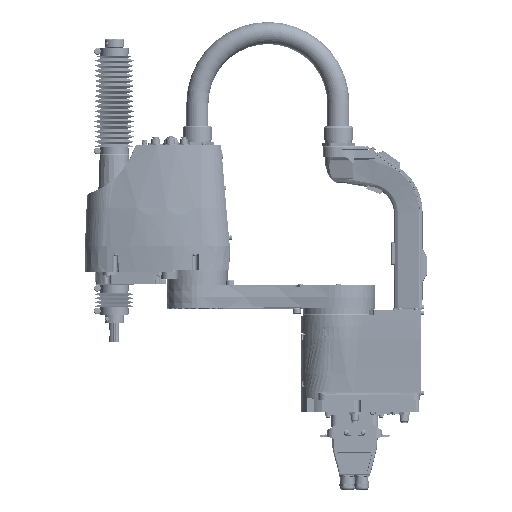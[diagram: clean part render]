
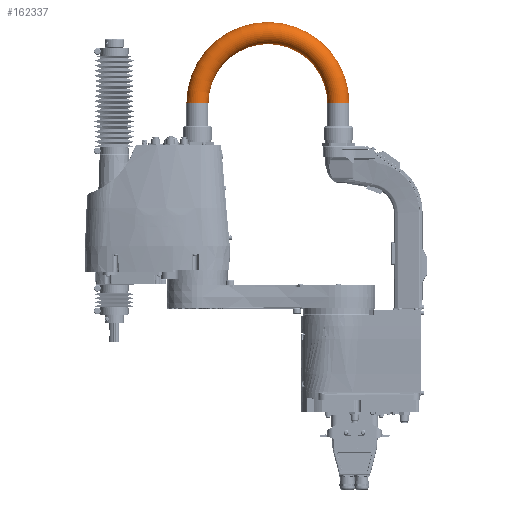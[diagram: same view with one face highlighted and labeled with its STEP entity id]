
A CAD part, top view. The second image highlights one B-rep face of the part: STEP entity #162337.
In plain terms, the highlighted toroidal (fillet/blend) face has major radius 110 mm and minor radius 17.25 mm.
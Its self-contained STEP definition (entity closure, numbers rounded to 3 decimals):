
#926 = AXIS2_PLACEMENT_3D ( 'NONE', #154142, #135858, #139411 ) ;
#6077 = CARTESIAN_POINT ( 'NONE',  ( -17.25, 66.4, 0. ) ) ;
#19794 = EDGE_CURVE ( 'NONE', #208021, #91319, #150930, .T. ) ;
#25659 = DIRECTION ( 'NONE',  ( 0., -1., 0. ) ) ;
#26371 = AXIS2_PLACEMENT_3D ( 'NONE', #177548, #167695, #92190 ) ;
#27433 = VERTEX_POINT ( 'NONE', #148824 ) ;
#30541 = AXIS2_PLACEMENT_3D ( 'NONE', #231943, #234369, #47091 ) ;
#32022 = CIRCLE ( 'NONE', #926, 92.75 ) ;
#32145 = DIRECTION ( 'NONE',  ( 0., 0., -1. ) ) ;
#34180 = CIRCLE ( 'NONE', #26371, 17.25 ) ;
#36743 = ORIENTED_EDGE ( 'NONE', *, *, #184610, .F. ) ;
#47091 = DIRECTION ( 'NONE',  ( -1., 0., 0. ) ) ;
#49170 = CARTESIAN_POINT ( 'NONE',  ( 110., 66.4, 0. ) ) ;
#57600 = EDGE_LOOP ( 'NONE', ( #81553, #141367, #70225, #219872, #120736, #36743 ) ) ;
#61062 = CARTESIAN_POINT ( 'NONE',  ( 0., 66.4, 0. ) ) ;
#62379 = FACE_OUTER_BOUND ( 'NONE', #57600, .T. ) ;
#63577 = CARTESIAN_POINT ( 'NONE',  ( 110., 66.4, 0. ) ) ;
#66494 = TOROIDAL_SURFACE ( 'NONE', #190881, 110., 17.25 ) ;
#67809 = CARTESIAN_POINT ( 'NONE',  ( 220., 66.4, 17.25 ) ) ;
#70225 = ORIENTED_EDGE ( 'NONE', *, *, #87984, .F. ) ;
#81553 = ORIENTED_EDGE ( 'NONE', *, *, #19794, .F. ) ;
#82766 = CARTESIAN_POINT ( 'NONE',  ( 0., 66.4, 0. ) ) ;
#86157 = CIRCLE ( 'NONE', #221928, 17.25 ) ;
#87984 = EDGE_CURVE ( 'NONE', #98912, #163486, #86157, .T. ) ;
#89344 = EDGE_CURVE ( 'NONE', #98912, #27433, #32022, .T. ) ;
#91319 = VERTEX_POINT ( 'NONE', #214011 ) ;
#92190 = DIRECTION ( 'NONE',  ( -1., 0., 0. ) ) ;
#92486 = VERTEX_POINT ( 'NONE', #67809 ) ;
#94953 = CIRCLE ( 'NONE', #102202, 17.25 ) ;
#98912 = VERTEX_POINT ( 'NONE', #217253 ) ;
#102202 = AXIS2_PLACEMENT_3D ( 'NONE', #61062, #106006, #200766 ) ;
#106006 = DIRECTION ( 'NONE',  ( 0., -1., 0. ) ) ;
#116059 = CIRCLE ( 'NONE', #30541, 17.25 ) ;
#120736 = ORIENTED_EDGE ( 'NONE', *, *, #123945, .F. ) ;
#123945 = EDGE_CURVE ( 'NONE', #92486, #27433, #116059, .T. ) ;
#135858 = DIRECTION ( 'NONE',  ( 0., 0., -1. ) ) ;
#136634 = DIRECTION ( 'NONE',  ( -1., 0., 0. ) ) ;
#139411 = DIRECTION ( 'NONE',  ( -1., 0., 0. ) ) ;
#141367 = ORIENTED_EDGE ( 'NONE', *, *, #225096, .F. ) ;
#148824 = CARTESIAN_POINT ( 'NONE',  ( 202.75, 66.4, 0. ) ) ;
#150930 = CIRCLE ( 'NONE', #181951, 127.25 ) ;
#154142 = CARTESIAN_POINT ( 'NONE',  ( 110., 66.4, 0. ) ) ;
#162337 = ADVANCED_FACE ( 'NONE', ( #62379 ), #66494, .T. ) ;
#163486 = VERTEX_POINT ( 'NONE', #238672 ) ;
#167695 = DIRECTION ( 'NONE',  ( 0., -1., 0. ) ) ;
#176732 = DIRECTION ( 'NONE',  ( 0., 0., -1. ) ) ;
#177548 = CARTESIAN_POINT ( 'NONE',  ( 220., 66.4, 0. ) ) ;
#181951 = AXIS2_PLACEMENT_3D ( 'NONE', #49170, #32145, #184127 ) ;
#184127 = DIRECTION ( 'NONE',  ( -1., 0., 0. ) ) ;
#184610 = EDGE_CURVE ( 'NONE', #91319, #92486, #34180, .T. ) ;
#190881 = AXIS2_PLACEMENT_3D ( 'NONE', #63577, #176732, #136634 ) ;
#200766 = DIRECTION ( 'NONE',  ( 0., 0., -1. ) ) ;
#208021 = VERTEX_POINT ( 'NONE', #6077 ) ;
#211694 = DIRECTION ( 'NONE',  ( 0., 0., -1. ) ) ;
#214011 = CARTESIAN_POINT ( 'NONE',  ( 237.25, 66.4, 0. ) ) ;
#217253 = CARTESIAN_POINT ( 'NONE',  ( 17.25, 66.4, 0. ) ) ;
#219872 = ORIENTED_EDGE ( 'NONE', *, *, #89344, .T. ) ;
#221928 = AXIS2_PLACEMENT_3D ( 'NONE', #82766, #25659, #211694 ) ;
#225096 = EDGE_CURVE ( 'NONE', #163486, #208021, #94953, .T. ) ;
#231943 = CARTESIAN_POINT ( 'NONE',  ( 220., 66.4, 0. ) ) ;
#234369 = DIRECTION ( 'NONE',  ( 0., -1., 0. ) ) ;
#238672 = CARTESIAN_POINT ( 'NONE',  ( 0., 66.4, 17.25 ) ) ;
